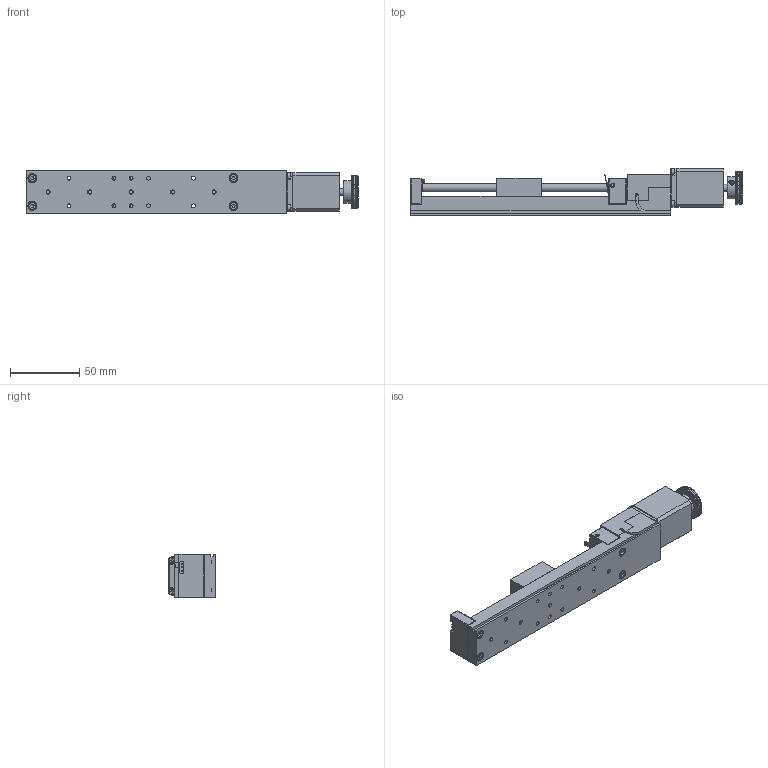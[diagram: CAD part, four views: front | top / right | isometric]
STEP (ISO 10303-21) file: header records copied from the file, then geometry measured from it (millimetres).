
FILE_DESCRIPTION (( 'STEP AP203' ), '1' );
FILE_NAME ('MMT32-100A.step', '2017-01-10T10:31:18', ( '¦K¬P' ), ( '' ), 'SwSTEP 2.0', 'SolidWorks 2012', '' );
FILE_SCHEMA (( 'CONFIG_CONTROL_DESIGN' ));
Length unit declared in the file: millimetre
Products named in the file (1): MMT32-100A
Bounding box: 240.01 x 34.1 x 31.5 mm (x, y, z)
Surface area: 45081.8 mm2 (no closed solid volume)
Topology: 0 solids, 52 shells, 727 faces, 2206 edges, 1456 vertices
Faces by surface type: plane 445, cylinder 208, cone 47, sphere 18, torus 9
Full cylindrical faces by diameter (mm): 1.6 x8, 2.4 x2, 2.5 x2, 2.7 x10, 3 x8, 4 x2, 4.5 x4, 5 x1, 5.5 x4, 6 x12, 6.2 x1, 6.5 x4, 7 x2, 12 x1, 16 x1
Entity records: 24289 total; most frequent: CARTESIAN_POINT 5571, DIRECTION 3736, ORIENTED_EDGE 3545, EDGE_CURVE 2053, VERTEX_POINT 1430, AXIS2_PLACEMENT_3D 1301, VECTOR 1134, LINE 1134
